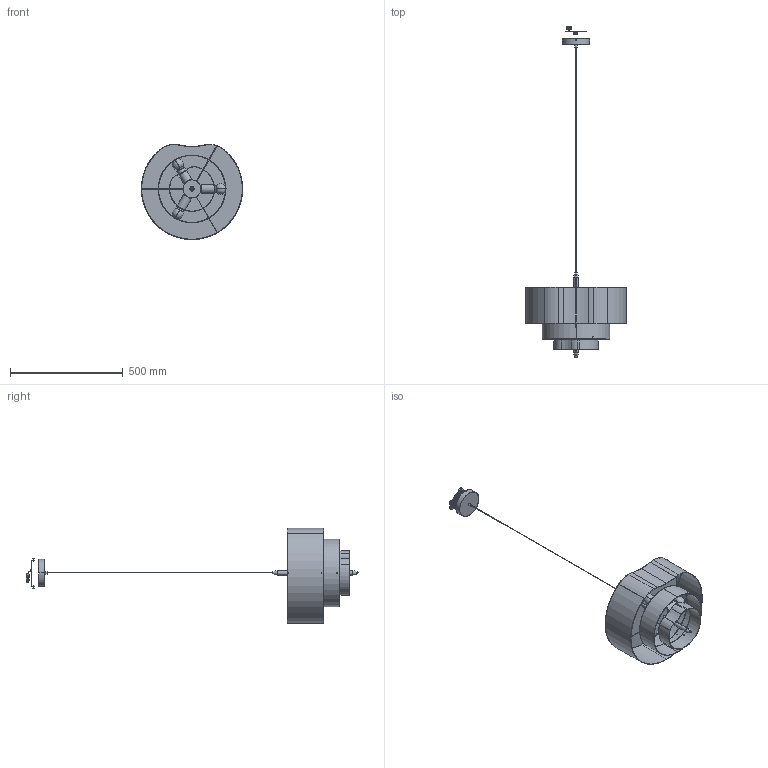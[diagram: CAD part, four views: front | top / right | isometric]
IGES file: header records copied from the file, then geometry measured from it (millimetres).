
Start section: SolidWorks IGES file using analytic representation for surfaces
Global section: file name: F:\燠隴矨\3D\205-3\Pebble Pendant Lamp-3heads-D45cm.IGS,15; native system: HSolidWorks 2022; preprocessor: SolidWorks 2022; author: MyPC; date: 250304.163334; units: millimetre
Bounding box: 450 x 1475.15 x 422.9 mm (x, y, z)
Surface area: 1173123.3 mm2 (no closed solid volume)
Topology: 0 solids, 0 shells, 610 faces, 10233 edges, 10227 vertices
Faces by surface type: revolution 336, bspline 274
